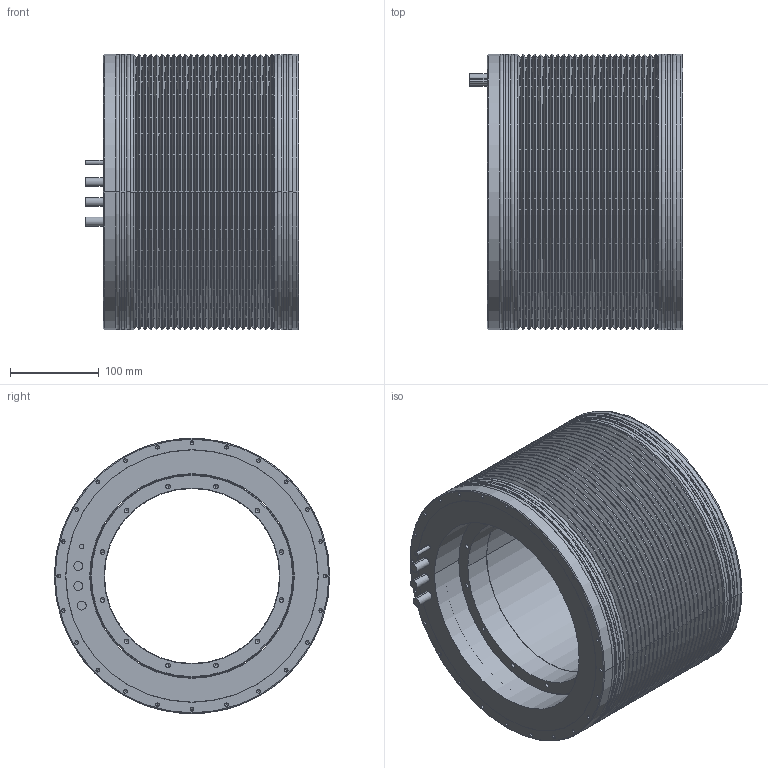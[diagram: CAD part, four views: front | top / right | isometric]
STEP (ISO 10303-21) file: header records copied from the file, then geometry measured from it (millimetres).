
FILE_DESCRIPTION((''),'2;1');
FILE_NAME('TK310-150','2017-10-26T',('stefanos'),(''),'CREO PARAMETRIC BY PTC INC, 2015480','CREO PARAMETRIC BY PTC INC, 2015480','');
FILE_SCHEMA(('CONFIG_CONTROL_DESIGN'));
Length unit declared in the file: millimetre
Products named in the file (1): TK310-150
Bounding box: 240 x 310 x 310 mm (x, y, z)
Volume: 8741442.2 mm3; surface area: 1527205.7 mm2
Topology: 9 solids, 9 shells, 549 faces, 1194 edges, 634 vertices
Faces by surface type: cylinder 264, cone 216, plane 37, torus 16, revolution 16
Entity records: 15620 total; most frequent: CARTESIAN_POINT 3801, DIRECTION 2734, ORIENTED_EDGE 2196, AXIS2_PLACEMENT_3D 1119, EDGE_CURVE 1098, VERTEX_POINT 634, EDGE_LOOP 634, CIRCLE 586
